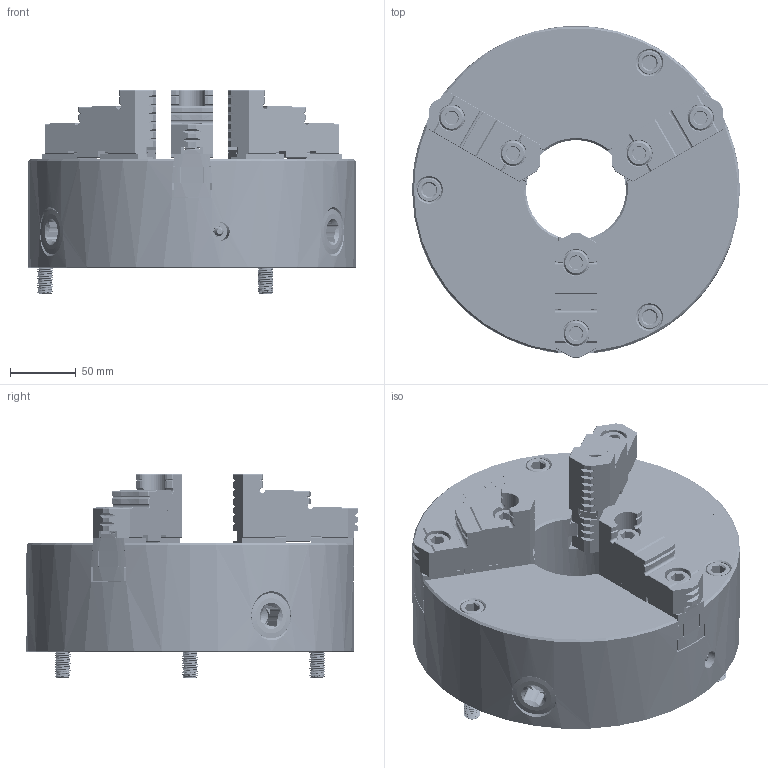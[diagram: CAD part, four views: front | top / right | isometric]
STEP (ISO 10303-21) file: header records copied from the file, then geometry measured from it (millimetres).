
FILE_DESCRIPTION (( 'STEP AP214' ), '1' );
FILE_NAME ('3-813-1000P REV A.STEP', '2024-10-24T17:45:20', ( '' ), ( '' ), 'SwSTEP 2.0', 'SolidWorks 2020', '' );
FILE_SCHEMA (( 'AUTOMOTIVE_DESIGN' ));
Length unit declared in the file: millimetre
Products named in the file (20): 3-886-310P_FOR-WEBSITE; 3-883-310P_TOP JAW3; 3-891-310P_3-891-310P-JAW1-LASERMARKING; 0.500-13 X1.50 SHCS_0.500-13 X1.50 SHCS; 3-891-310P_3-891-310P-JAW2-LASERMARKING; 3-885-310P_JAW1-FOR-WEBSITE; M8x1.25X16 SHCS_M8x1.25X16 SHCS; C-CK10-COVER_C-CK10-COVER; M12x1.75X90 SHCS_M12x1.75X90 SHCS; 3-885-310P_JAW3-FOR-WEBSITE; 3-883-310P_TOP JAW1; C-CK10-BDY3JFM_BODY-813; 3-891-310P_3-891-310P-JAW3-LASERMARKING; 3-885-310P_JAW2-FOR-WEBSITE; 3-887-310P_FOR-WEBSITE; 3-888-910P_3-888-910P; 3-813-1000P REV A; 0.500-13 X1.00 SHCS_0.500-13 X1.00 SHCS; M6x1.0 GREASE FITTING_M6x1.0 GREASE FITTING; 3-883-310P_TOP JAW2
Assembly tree (31 placements, depth 3):
  3-813-1000P REV A
    C-CK10-BDY3JFM_BODY-813
    3-887-310P_FOR-WEBSITE
    3-886-310P_FOR-WEBSITE  x3
    3-888-910P_3-888-910P  x3
    C-CK10-COVER_C-CK10-COVER
    3-891-310P_3-891-310P-JAW1-LASERMARKING
      3-885-310P_JAW1-FOR-WEBSITE
      3-883-310P_TOP JAW1
      0.500-13 X1.50 SHCS_0.500-13 X1.50 SHCS
      0.500-13 X1.00 SHCS_0.500-13 X1.00 SHCS
    3-891-310P_3-891-310P-JAW2-LASERMARKING
      3-885-310P_JAW2-FOR-WEBSITE
      3-883-310P_TOP JAW2
      0.500-13 X1.50 SHCS_0.500-13 X1.50 SHCS
      0.500-13 X1.00 SHCS_0.500-13 X1.00 SHCS
    3-891-310P_3-891-310P-JAW3-LASERMARKING
      3-885-310P_JAW3-FOR-WEBSITE
      3-883-310P_TOP JAW3
      0.500-13 X1.50 SHCS_0.500-13 X1.50 SHCS
      0.500-13 X1.00 SHCS_0.500-13 X1.00 SHCS
    M12x1.75X90 SHCS_M12x1.75X90 SHCS  x3
    M8x1.25X16 SHCS_M8x1.25X16 SHCS  x3
    M6x1.0 GREASE FITTING_M6x1.0 GREASE FITTING
Bounding box: 250 x 253.1 x 155.31 mm (x, y, z)
Volume: 3355165.6 mm3; surface area: 556832.9 mm2
Topology: 28 solids, 28 shells, 5195 faces, 14288 edges, 9276 vertices
Faces by surface type: plane 1879, cylinder 1594, cone 644, torus 601, bspline 467, sphere 10
Entity records: 155185 total; most frequent: CARTESIAN_POINT 75948, ORIENTED_EDGE 18052, DIRECTION 13568, EDGE_CURVE 9026, VERTEX_POINT 5862, AXIS2_PLACEMENT_3D 4611, VECTOR 4346, LINE 4346
